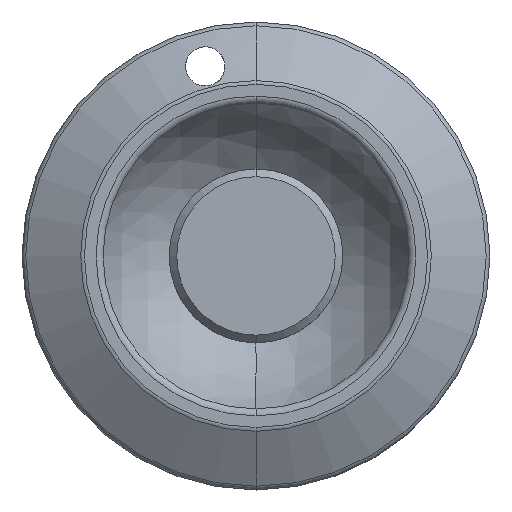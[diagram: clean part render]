
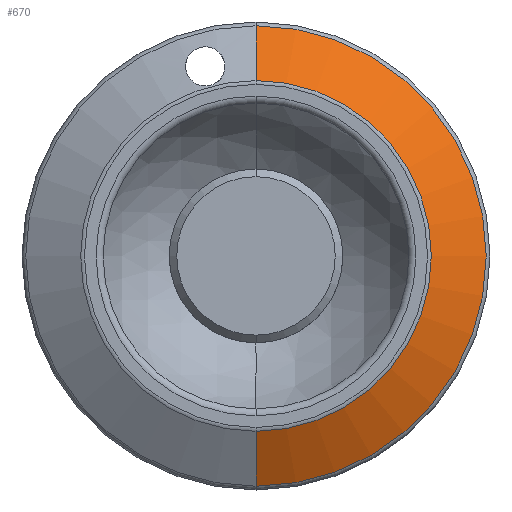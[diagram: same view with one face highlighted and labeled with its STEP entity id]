
A CAD part, top view. The second image highlights one B-rep face of the part: STEP entity #670.
In plain terms, the highlighted conical face has half-angle 60 degrees and reference radius 15.25 mm.
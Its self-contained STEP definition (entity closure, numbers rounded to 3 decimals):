
#45 = CARTESIAN_POINT ( 'NONE',  ( 0., 15.25, 30.535 ) ) ;
#71 = CARTESIAN_POINT ( 'NONE',  ( 0., 11.616, 32.633 ) ) ;
#73 = EDGE_CURVE ( 'NONE', #1516, #166, #1517, .T. ) ;
#77 = VECTOR ( 'NONE', #219, 1000. ) ;
#111 = AXIS2_PLACEMENT_3D ( 'NONE', #1034, #1380, #788 ) ;
#127 = VERTEX_POINT ( 'NONE', #793 ) ;
#166 = VERTEX_POINT ( 'NONE', #71 ) ;
#189 = CARTESIAN_POINT ( 'NONE',  ( 0., -15.25, 30.535 ) ) ;
#190 = CIRCLE ( 'NONE', #111, 15.25 ) ;
#219 = DIRECTION ( 'NONE',  ( 0., 0.866, -0.5 ) ) ;
#227 = ORIENTED_EDGE ( 'NONE', *, *, #1135, .T. ) ;
#511 = ORIENTED_EDGE ( 'NONE', *, *, #73, .F. ) ;
#535 = FACE_OUTER_BOUND ( 'NONE', #925, .T. ) ;
#543 = CARTESIAN_POINT ( 'NONE',  ( 0., 0., 32.633 ) ) ;
#567 = ORIENTED_EDGE ( 'NONE', *, *, #817, .F. ) ;
#605 = VECTOR ( 'NONE', #1183, 1000. ) ;
#626 = AXIS2_PLACEMENT_3D ( 'NONE', #1395, #800, #674 ) ;
#670 = ADVANCED_FACE ( 'NONE', ( #535 ), #1011, .T. ) ;
#674 = DIRECTION ( 'NONE',  ( 0., 1., 0. ) ) ;
#788 = DIRECTION ( 'NONE',  ( 0., -1., 0. ) ) ;
#793 = CARTESIAN_POINT ( 'NONE',  ( 0., 15.25, 30.535 ) ) ;
#800 = DIRECTION ( 'NONE',  ( 0., 0., -1. ) ) ;
#812 = ORIENTED_EDGE ( 'NONE', *, *, #1412, .T. ) ;
#817 = EDGE_CURVE ( 'NONE', #166, #127, #1167, .T. ) ;
#824 = AXIS2_PLACEMENT_3D ( 'NONE', #543, #1279, #1535 ) ;
#925 = EDGE_LOOP ( 'NONE', ( #511, #227, #812, #567 ) ) ;
#1011 = CONICAL_SURFACE ( 'NONE', #626, 15.25, 1.047 ) ;
#1034 = CARTESIAN_POINT ( 'NONE',  ( 0., 0., 30.535 ) ) ;
#1135 = EDGE_CURVE ( 'NONE', #1516, #1251, #1283, .T. ) ;
#1167 = LINE ( 'NONE', #45, #77 ) ;
#1183 = DIRECTION ( 'NONE',  ( 0., -0.866, -0.5 ) ) ;
#1189 = CARTESIAN_POINT ( 'NONE',  ( 0., -11.616, 32.633 ) ) ;
#1251 = VERTEX_POINT ( 'NONE', #1457 ) ;
#1279 = DIRECTION ( 'NONE',  ( 0., 0., 1. ) ) ;
#1283 = LINE ( 'NONE', #189, #605 ) ;
#1380 = DIRECTION ( 'NONE',  ( 0., 0., 1. ) ) ;
#1395 = CARTESIAN_POINT ( 'NONE',  ( 0., 0., 30.535 ) ) ;
#1412 = EDGE_CURVE ( 'NONE', #1251, #127, #190, .T. ) ;
#1457 = CARTESIAN_POINT ( 'NONE',  ( 0., -15.25, 30.535 ) ) ;
#1516 = VERTEX_POINT ( 'NONE', #1189 ) ;
#1517 = CIRCLE ( 'NONE', #824, 11.616 ) ;
#1535 = DIRECTION ( 'NONE',  ( 0., -1., 0. ) ) ;
